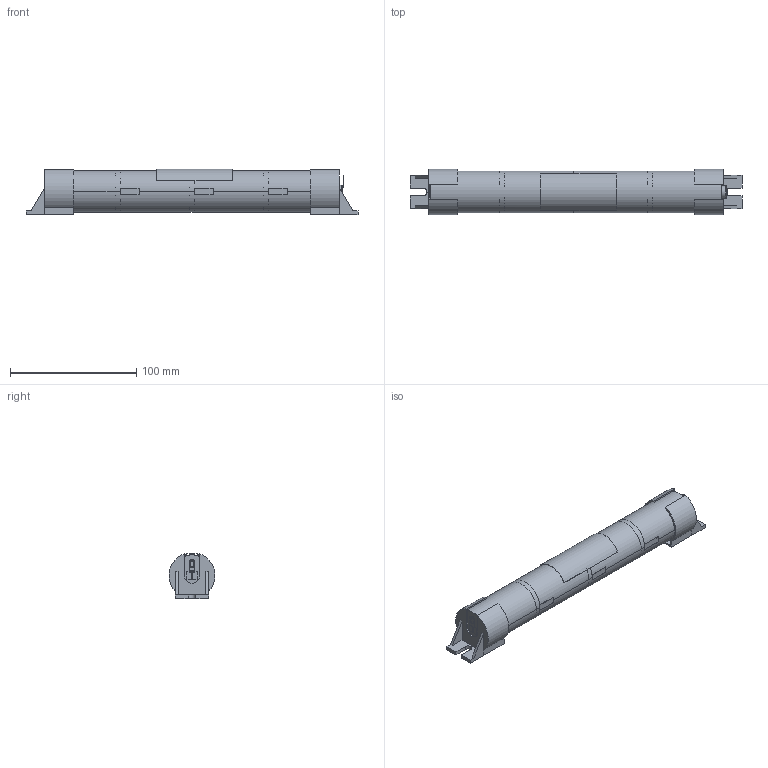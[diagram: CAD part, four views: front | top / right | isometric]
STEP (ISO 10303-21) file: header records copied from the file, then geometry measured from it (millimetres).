
FILE_DESCRIPTION((''),'2;1');
FILE_NAME('15012483Z_DMEC_89800089_4A-55','2018-07-11T13:31:34',('Emanuel.Wild'),(''),'CREO PARAMETRIC BY PTC INC, 2017380','CREO PARAMETRIC BY PTC INC, 2017380','');
FILE_SCHEMA(('AUTOMOTIVE_DESIGN { 1 0 10303 214 1 1 1 1 }'));
Length unit declared in the file: millimetre
Products named in the file (1): 15012483Z_DMEC_89800089_4A-55
Bounding box: 263.05 x 36.43 x 35.98 mm (x, y, z)
Volume: 200420.4 mm3; surface area: 47745.1 mm2
Topology: 2 solids, 7 shells, 316 faces, 801 edges, 497 vertices
Faces by surface type: plane 217, cylinder 61, torus 16, extrusion 16, bspline 6
Entity records: 10355 total; most frequent: CARTESIAN_POINT 2360, ORIENTED_EDGE 1594, DIRECTION 1548, EDGE_CURVE 801, VECTOR 524, AXIS2_PLACEMENT_3D 512, LINE 508, VERTEX_POINT 497
